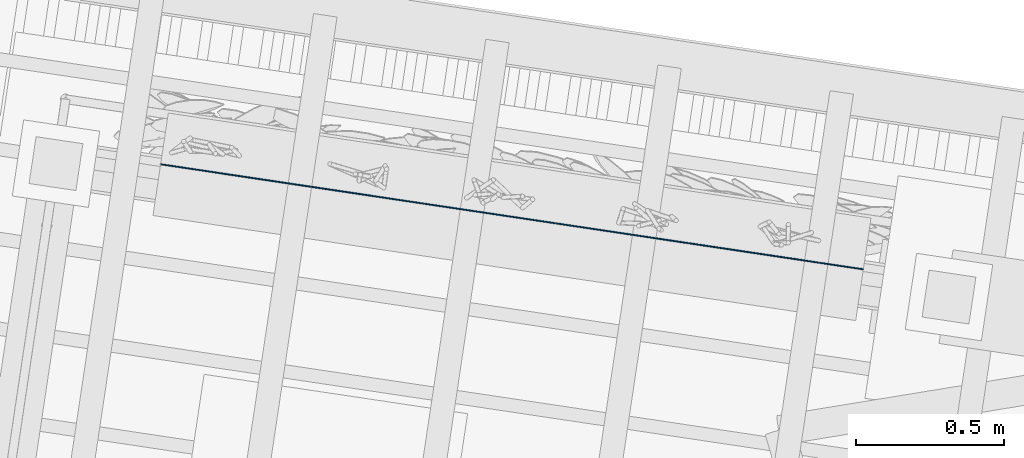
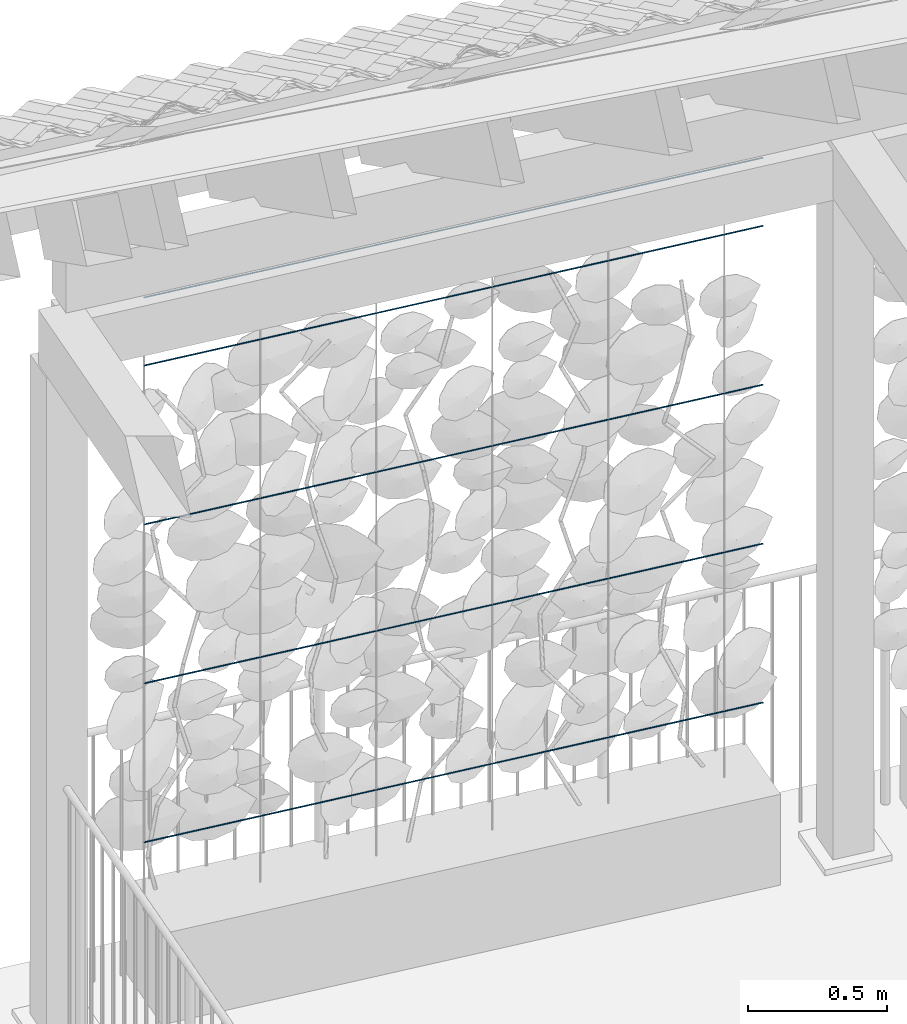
# One storey, part 28 of 131: 5 members, 1 element without a shape of its own.
"""IFC4 building model written with IfcOpenShell, lengths in metres."""

from ifc_helpers import new_model, si_unit, direction, frame, origin_with_axes, place, context, subcontext, project, spatial, circle, extrude, material, material_profile, profile_set, profile_usage, type_object, element, aggregate, save


model = new_model("IFC4")

# Units and contexts
model_context = context("Model", 3, precision=1e-05, world=origin_with_axes(), true_north=direction((0.0, 1.0)))
body_context = subcontext(model_context, "Body", "Model", "MODEL_VIEW")
ifc_project = project(units=[si_unit("AREAUNIT", "SQUARE_METRE"), si_unit("VOLUMEUNIT", "CUBIC_METRE"), si_unit("LENGTHUNIT", "METRE")], contexts=[model_context])

# Site, building, storey
site_placement = place(None, origin_with_axes())
site = spatial("IfcSite", under=ifc_project, at=site_placement, Name="Lares · Rua das Mercês · artigo 4771")
building_placement = place(site_placement, frame((15.0, 9.7, 14.65), z_axis=(0.0, 0.0, 1.0), x_axis=(0.989015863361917, -0.147809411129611, 0.0)))
building = spatial("IfcBuilding", under=site, at=building_placement, Name="Casa Sobreposta")
storey_placement = place(building_placement, origin_with_axes())
storey = spatial("IfcBuildingStorey", under=building, at=storey_placement, Name="00 · Habitação e estacionamento", Elevation=14.65)

# Assembly, members
assembly_placement = place(storey_placement, origin_with_axes())
assembly = element("IfcElementAssembly", 1, at=assembly_placement, inside=storey, Name="Fachada sul e pátio · estrutura e trepadeiras", ObjectType="LIVING_SHADE_TRELLIS", PredefinedType="USERDEFINED")
ifc_material = material(Name="Aço galvanizado / Stahl verzinkt", Category="steel")
ifc_material_profile = material_profile(ifc_material, circle(Radius=0.002))
ifc_profile_set = profile_set([ifc_material_profile], Name="D0.004")
ifc_profile_usage_1 = profile_usage(ifc_profile_set)
member_type = type_object("IfcMemberType", Name="D0.004 / galvanized", PredefinedType="NOTDEFINED", material=ifc_profile_set)
member_1_placement = place(assembly_placement, frame((-5.7, 6.48, 0.65), z_axis=(1.0, 0.0, 0.0), x_axis=(0.0, -1.0, 0.0)))
member_1 = element("IfcMember", 2, at=member_1_placement, type_object=member_type, material=ifc_profile_usage_1, Name="Trepadeiras · fio horizontal", context=body_context, shape_type="SweptSolid", body=[
    extrude(circle(Radius=0.002), origin_with_axes(), (0.0, 0.0, 1.0), 2.4),
])
ifc_profile_usage_2 = profile_usage(ifc_profile_set)
member_2_placement = place(assembly_placement, frame((-5.7, 6.48, 1.35), z_axis=(1.0, 0.0, 0.0), x_axis=(0.0, -1.0, 0.0)))
member_2 = element("IfcMember", 3, at=member_2_placement, type_object=member_type, material=ifc_profile_usage_2, Name="Trepadeiras · fio horizontal", context=body_context, shape_type="SweptSolid", body=[
    extrude(circle(Radius=0.002), origin_with_axes(), (0.0, 0.0, 1.0), 2.4),
])
ifc_profile_usage_3 = profile_usage(ifc_profile_set)
member_3_placement = place(assembly_placement, frame((-5.7, 6.48, 2.05), z_axis=(1.0, 0.0, 0.0), x_axis=(0.0, -1.0, 0.0)))
member_3 = element("IfcMember", 4, at=member_3_placement, type_object=member_type, material=ifc_profile_usage_3, Name="Trepadeiras · fio horizontal", context=body_context, shape_type="SweptSolid", body=[
    extrude(circle(Radius=0.002), origin_with_axes(), (0.0, 0.0, 1.0), 2.4),
])
ifc_profile_usage_4 = profile_usage(ifc_profile_set)
member_4_placement = place(assembly_placement, frame((-5.7, 6.48, 2.75), z_axis=(1.0, 0.0, 0.0), x_axis=(0.0, -1.0, 0.0)))
member_4 = element("IfcMember", 5, at=member_4_placement, type_object=member_type, material=ifc_profile_usage_4, Name="Trepadeiras · fio horizontal", context=body_context, shape_type="SweptSolid", body=[
    extrude(circle(Radius=0.002), origin_with_axes(), (0.0, 0.0, 1.0), 2.4),
])
ifc_profile_usage_5 = profile_usage(ifc_profile_set)
member_5_placement = place(assembly_placement, frame((-5.7, 6.48, 3.05), z_axis=(1.0, 0.0, 0.0), x_axis=(0.0, -1.0, 0.0)))
member_5 = element("IfcMember", 6, at=member_5_placement, type_object=member_type, material=ifc_profile_usage_5, Name="Trepadeiras · fio horizontal", context=body_context, shape_type="SweptSolid", body=[
    extrude(circle(Radius=0.002), origin_with_axes(), (0.0, 0.0, 1.0), 2.4),
])
aggregate(assembly, [member_1, member_2, member_3, member_4, member_5])

save(model, "model.ifc")
